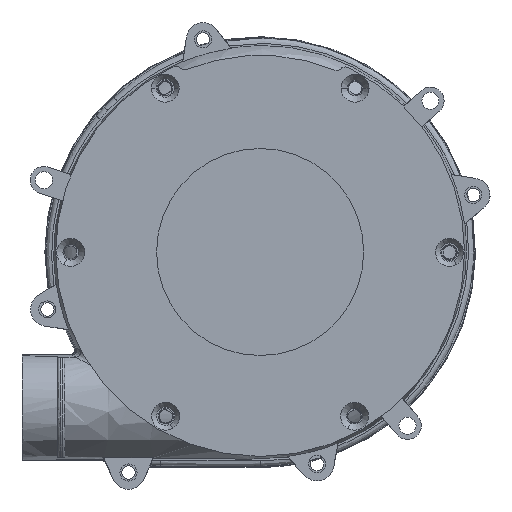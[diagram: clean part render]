
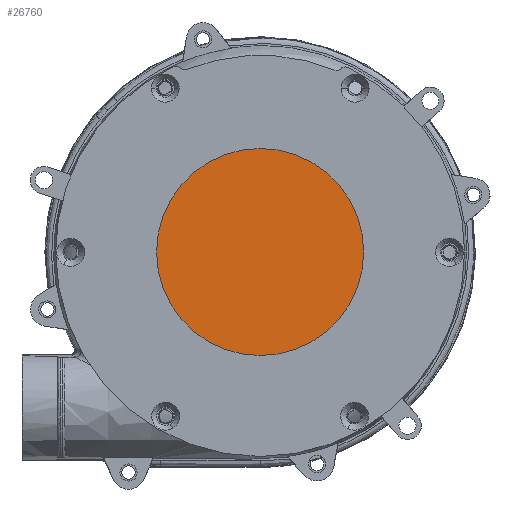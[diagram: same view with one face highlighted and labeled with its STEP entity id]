
A CAD part, front view. The second image highlights one B-rep face of the part: STEP entity #26760.
In plain terms, the highlighted planar face has unit normal (0, -1, 0).
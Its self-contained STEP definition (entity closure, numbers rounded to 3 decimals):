
#25705=CARTESIAN_POINT('',(0.,-22.23,0.));
#25706=DIRECTION('',(0.,1.,0.));
#25707=DIRECTION('',(1.,0.,0.));
#25708=AXIS2_PLACEMENT_3D('',#25705,#25706,#25707);
#25713=CARTESIAN_POINT('',(0.,-22.23,0.));
#25714=DIRECTION('',(0.,1.,0.));
#25715=DIRECTION('',(-1.,0.,0.));
#25716=AXIS2_PLACEMENT_3D('',#25713,#25714,#25715);
#25961=CARTESIAN_POINT('',(-20.,-22.23,0.));
#25962=VERTEX_POINT('',#25961);
#25963=CARTESIAN_POINT('',(20.,-22.23,0.));
#25964=VERTEX_POINT('',#25963);
#26751=CARTESIAN_POINT('',(0.,-22.23,0.));
#26752=DIRECTION('',(0.,-1.,0.));
#26753=DIRECTION('',(-1.,0.,0.));
#26754=AXIS2_PLACEMENT_3D('',#26751,#26752,#26753);
#26755=PLANE('',#26754);
#26756=ORIENTED_EDGE('',*,*,#26717,.T.);
#26757=ORIENTED_EDGE('',*,*,#26738,.T.);
#26758=EDGE_LOOP('',(#26756,#26757));
#26759=FACE_OUTER_BOUND('',#26758,.F.);
#26760=ADVANCED_FACE('',(#26759),#26755,.T.);
#25709=CIRCLE('',#25708,20.);
#25717=CIRCLE('',#25716,20.);
#26717=EDGE_CURVE('',#25964,#25962,#25709,.T.);
#26738=EDGE_CURVE('',#25962,#25964,#25717,.T.);
